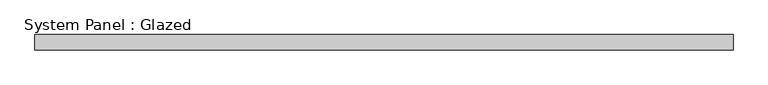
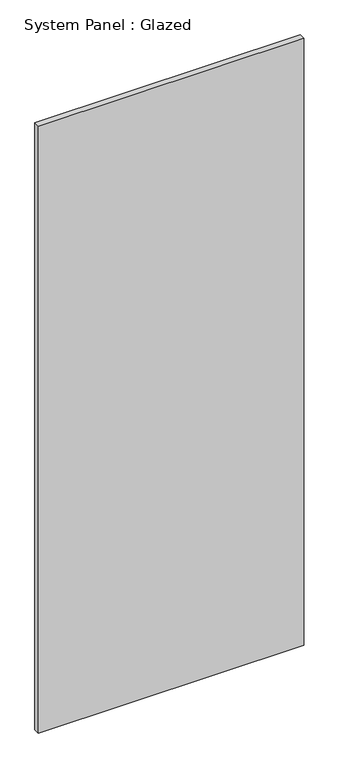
"""IFC4 building model written with IfcOpenShell, lengths in millimetres: plate geometry, System Panel : Glazed."""

import ifcopenshell
import ifcopenshell.guid

model = None  # the IFC model being written
_history = None  # IfcOwnerHistory: only IFC2X3 demands one
_inside = {}  # id of a spatial element -> (the spatial element, [elements in it])
_under = {}  # id of a project, library or spatial element -> (it, [spatial elements below it])
_declared = {}  # id of a project -> (the project, [libraries it declares])
_typed = {}  # id of a type object -> (the type object, [elements of that type])
_made_of = {}  # id of a material, layer set ... -> (it, [elements and type objects made of it])


def new_model(schema):
    """Start an empty IFC model of exactly this schema.

    Asked for "IFC4X3", IfcOpenShell would pick the latest addendum, in which some entities
    have other attributes; the version numbers below select the first issue.
    IFC2X3 requires an IfcOwnerHistory on every rooted entity: one is made here for all.
    """
    global model, _history
    if schema == "IFC4X3":
        model = ifcopenshell.file(schema_version=(4, 3, 0, 0))
    else:
        model = ifcopenshell.file(schema=schema)
    _inside.clear()
    _under.clear()
    _declared.clear()
    _typed.clear()
    _made_of.clear()
    _history = None
    if model.schema == "IFC2X3":
        org = make("IfcOrganization", Name="unknown")
        user = make(
            "IfcPersonAndOrganization",
            ThePerson=make("IfcPerson", FamilyName="unknown"),
            TheOrganization=org,
        )
        app = make(
            "IfcApplication",
            ApplicationDeveloper=org,
            Version="unknown",
            ApplicationFullName="unknown",
            ApplicationIdentifier="unknown",
        )
        _history = make(
            "IfcOwnerHistory",
            OwningUser=user,
            OwningApplication=app,
            ChangeAction="ADDED",
            CreationDate=0,
        )
    return model


def make(cls, **values):
    """One entity of the class cls with the attributes given. An attribute that is None is left unset."""
    return model.create_entity(
        cls, **{name: value for name, value in values.items() if value is not None}
    )


def rooted(cls, **values):
    """An entity with a GlobalId (a new one), such as an element, a storey or a relation."""
    return make(cls, GlobalId=ifcopenshell.guid.new(), OwnerHistory=_history, **values)


def si_unit(unit_type, name, prefix=None):
    """IfcSIUnit, for example si_unit("LENGTHUNIT", "METRE", prefix="MILLI")."""
    return make("IfcSIUnit", UnitType=unit_type, Prefix=prefix, Name=name)


def assignment(units):
    """IfcUnitAssignment: the units of a project."""
    return None if units is None else make("IfcUnitAssignment", Units=units)


def point(xyz):
    """IfcCartesianPoint."""
    return None if xyz is None else make("IfcCartesianPoint", Coordinates=xyz)


def direction(xyz):
    """IfcDirection."""
    return None if xyz is None else make("IfcDirection", DirectionRatios=xyz)


def frame(location, z_axis=None, x_axis=None):
    """IfcAxis2Placement3D, a coordinate frame: its origin and axes. An axis left out is left unset."""
    return make(
        "IfcAxis2Placement3D",
        Location=point(location),
        Axis=direction(z_axis),
        RefDirection=direction(x_axis),
    )


def origin():
    """The frame at (0, 0, 0) with its axes left unset."""
    return frame((0.0, 0.0, 0.0))


def origin_with_axes():
    """The frame at (0, 0, 0) with the z axis (0, 0, 1) and the x axis (1, 0, 0) written out."""
    return frame((0.0, 0.0, 0.0), z_axis=(0.0, 0.0, 1.0), x_axis=(1.0, 0.0, 0.0))


def place(relative_to, where):
    """IfcLocalPlacement: puts the frame where relative to a parent placement (None: the world)."""
    return make(
        "IfcLocalPlacement", PlacementRelTo=relative_to, RelativePlacement=where
    )


def context(
    kind, dimensions, precision=None, world=None, true_north=None, identifier=None
):
    """IfcGeometricRepresentationContext, for example the 3D "Model" context."""
    return make(
        "IfcGeometricRepresentationContext",
        ContextIdentifier=identifier,
        ContextType=kind,
        CoordinateSpaceDimension=dimensions,
        Precision=precision,
        WorldCoordinateSystem=world,
        TrueNorth=true_north,
    )


def project(units=None, contexts=None):
    """IfcProject with its units and contexts."""
    return rooted(
        "IfcProject",
        Name="project",
        RepresentationContexts=contexts,
        UnitsInContext=assignment(units),
    )


def spatial(cls, under=None, at=None, **own):
    """A site, building, storey or space (cls), placed at a placement, below another one or the project."""
    s = rooted(cls, ObjectPlacement=at, **own)
    if under is not None:
        _under.setdefault(under.id(), (under, []))[1].append(s)
    return s


def polyline(points):
    """IfcPolyline through the points."""
    return make("IfcPolyline", Points=[point(p) for p in points])


def outline(outer, holes=None, kind="AREA"):
    """IfcArbitraryClosedProfileDef: a profile drawn as a closed curve; with holes, ...WithVoids."""
    if holes is None:
        return make("IfcArbitraryClosedProfileDef", ProfileType=kind, OuterCurve=outer)
    return make(
        "IfcArbitraryProfileDefWithVoids",
        ProfileType=kind,
        OuterCurve=outer,
        InnerCurves=holes,
    )


def extrude(swept, where, along, depth):
    """IfcExtrudedAreaSolid: the profile swept, set in the frame where, extruded along a direction by depth."""
    return make(
        "IfcExtrudedAreaSolid",
        SweptArea=swept,
        Position=where,
        ExtrudedDirection=direction(along),
        Depth=depth,
    )


def shape(context_of_items, identifier, shape_type, items):
    """IfcShapeRepresentation: the items that make up one representation, for example the "Body"."""
    return make(
        "IfcShapeRepresentation",
        ContextOfItems=context_of_items,
        RepresentationIdentifier=identifier,
        RepresentationType=shape_type,
        Items=items,
    )


def source(mapping_origin, context_of_items, identifier, shape_type, items):
    """IfcRepresentationMap: a shape defined once, which mapped items show again and again."""
    return make(
        "IfcRepresentationMap",
        MappingOrigin=mapping_origin,
        MappedRepresentation=shape(context_of_items, identifier, shape_type, items),
    )


def transform(
    local_origin,
    x_axis=None,
    y_axis=None,
    z_axis=None,
    scale=None,
    scale2=None,
    scale3=None,
    uniform=True,
):
    """IfcCartesianTransformationOperator3D, or its non-uniform kind. x_axis, y_axis, z_axis: its Axis1, 2, 3."""
    if uniform:
        return make(
            "IfcCartesianTransformationOperator3D",
            Axis1=direction(x_axis),
            Axis2=direction(y_axis),
            LocalOrigin=point(local_origin),
            Scale=scale,
            Axis3=direction(z_axis),
        )
    return make(
        "IfcCartesianTransformationOperator3DnonUniform",
        Axis1=direction(x_axis),
        Axis2=direction(y_axis),
        LocalOrigin=point(local_origin),
        Scale=scale,
        Axis3=direction(z_axis),
        Scale2=scale2,
        Scale3=scale3,
    )


def mapped(mapping_source, mapping_target):
    """IfcMappedItem: shows the shape of a source again, moved by a transform."""
    return make(
        "IfcMappedItem", MappingSource=mapping_source, MappingTarget=mapping_target
    )


def made_of(thing, what):
    """Note that an element or type object is made of a material, layer set ...; save() writes the relation."""
    if what is not None:
        _made_of.setdefault(what.id(), (what, []))[1].append(thing)
    return thing


def element(
    cls,
    number,
    at=None,
    inside=None,
    cuts=None,
    type_object=None,
    material=None,
    context=None,
    identifier="Body",
    shape_type=None,
    held_by="IfcProductDefinitionShape",
    body=None,
    shapes=None,
    **own,
):
    """One element of the class cls, such as IfcWall. Its Tag is "e" and its number.

    at: its placement. inside: the storey or other place that contains it. cuts: it is an
    opening in that element (IfcRelVoidsElement). A single representation is given by context,
    identifier, shape_type and body (its items); several are given by shapes. held_by: the class
    of the entity that holds the representations. save() writes the other relations.
    """
    e = rooted(cls, Tag="e%d" % number, ObjectPlacement=at, **own)
    if body is not None:
        shapes = [shape(context, identifier, shape_type, body)]
    if shapes is not None:
        e.Representation = make(held_by, Representations=shapes)
    if inside is not None:
        _inside.setdefault(inside.id(), (inside, []))[1].append(e)
    if cuts is not None:
        rooted(
            "IfcRelVoidsElement", RelatingBuildingElement=cuts, RelatedOpeningElement=e
        )
    if type_object is not None:
        _typed.setdefault(type_object.id(), (type_object, []))[1].append(e)
    return made_of(e, material)


def aggregate(whole, parts):
    """IfcRelAggregates: a whole, such as a stair, and the parts it consists of."""
    return rooted("IfcRelAggregates", RelatingObject=whole, RelatedObjects=parts)


def save(model, path):
    """Write the relations noted so far, then the file.

    IfcRelAggregates (storeys below a building ...), IfcRelContainedInSpatialStructure (elements
    in a storey), IfcRelDefinesByType, IfcRelAssociatesMaterial and IfcRelDeclares: one each for
    every whole, place, type object, material and project.
    """
    for whole, parts in _under.values():
        aggregate(whole, parts)
    for where, things in _inside.values():
        rooted(
            "IfcRelContainedInSpatialStructure",
            RelatedElements=things,
            RelatingStructure=where,
        )
    for kind, things in _typed.values():
        rooted("IfcRelDefinesByType", RelatedObjects=things, RelatingType=kind)
    for what, things in _made_of.values():
        rooted("IfcRelAssociatesMaterial", RelatedObjects=things, RelatingMaterial=what)
    for by, libraries in _declared.values():
        rooted("IfcRelDeclares", RelatingContext=by, RelatedDefinitions=libraries)
    model.write(path)


def system_panel_glazed_7e734854(model_context):
    return source(origin(), model_context, "Body", "SweptSolid", [
        extrude(outline(polyline([(578.8703325, -44.45), (-578.8703325, -44.45), (-578.8703325, -19.05), (578.8703325, -19.05), (578.8703325, -44.45)])), origin_with_axes(), (0.0, 0.0, 1.0), 2800.0),
    ])


if __name__ == "__main__":
    model = new_model("IFC4")
    model_context = context("Model", 3, world=origin())
    ifc_project = project(units=[si_unit("LENGTHUNIT", "METRE", prefix="MILLI")], contexts=[model_context])
    site = spatial("IfcSite", under=ifc_project)
    building = spatial("IfcBuilding", under=site)
    placement = place(None, origin())
    system_panel_glazed_shape = system_panel_glazed_7e734854(model_context)
    element("IfcPlate", 1, ObjectType="System Panel : Glazed", at=placement, inside=building, context=model_context, shape_type="MappedRepresentation", body=[
        mapped(system_panel_glazed_shape, transform((0.0, 0.0, 0.0), x_axis=(1.0, 0.0, 0.0), y_axis=(0.0, 1.0, 0.0), z_axis=(0.0, 0.0, 1.0))),
    ])
    save(model, "model.ifc")
